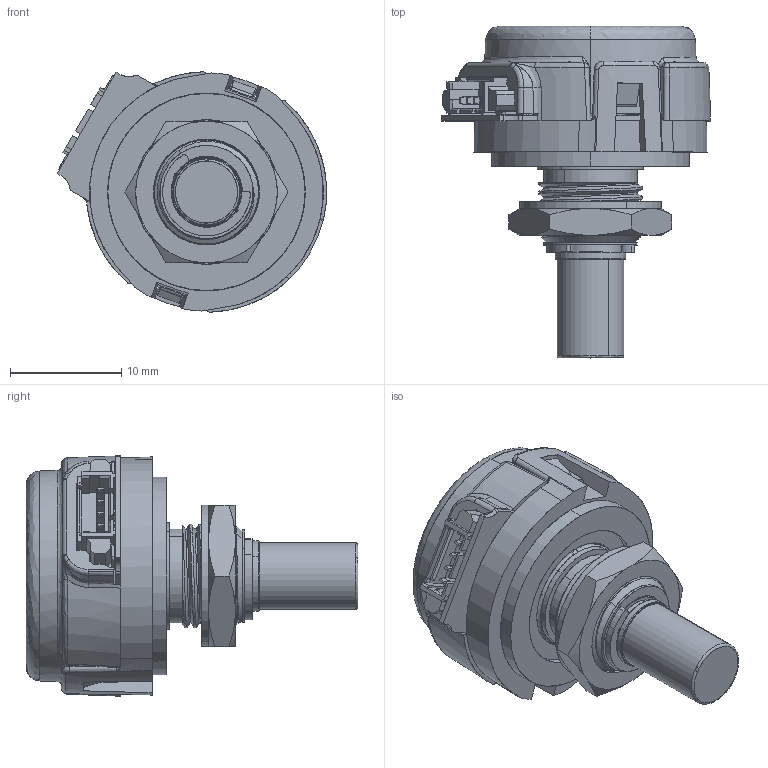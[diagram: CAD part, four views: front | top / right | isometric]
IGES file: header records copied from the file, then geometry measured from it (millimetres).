
Start section: SolidWorks IGES file using analytic representation for surfaces
Global section: file name: O:\08-Produkte_DatBlät&Beiblät&PrLi&Appl&Wettb\8-1 Megatron\8-1-11 Drehgeber\8-1-11-1 Datenblätter\SPC\3-D_SPC.IGS; native system: SolidWorks 2012; preprocessor: SolidWorks 2012; author: AlessandroC; date: 120920.170121; units: inch
Bounding box: 24.22 x 29.84 x 21.62 mm (x, y, z)
Surface area: 5533.7 mm2 (no closed solid volume)
Topology: 0 solids, 0 shells, 851 faces, 7640 edges, 7634 vertices
Faces by surface type: bspline 578, revolution 273
